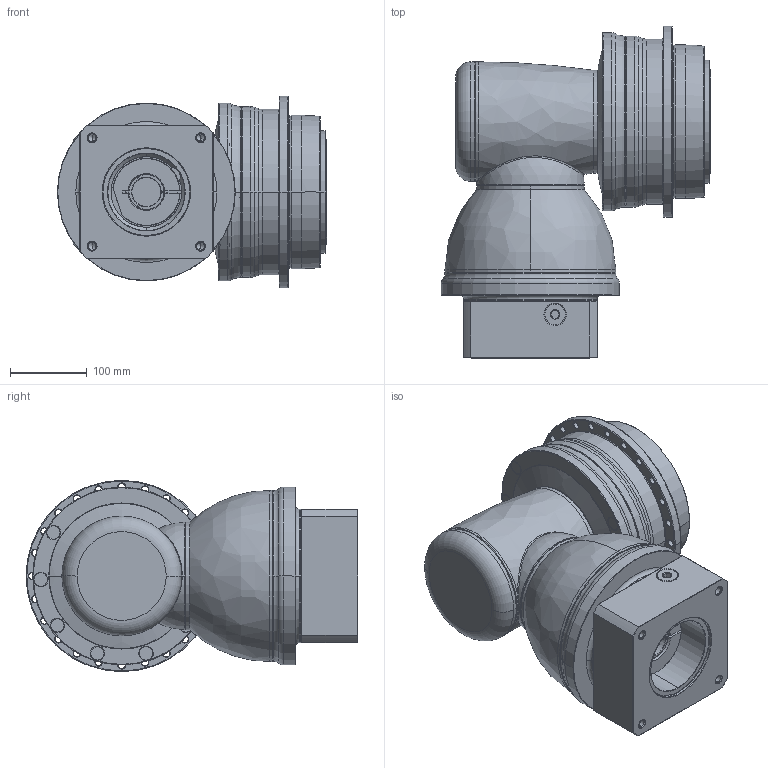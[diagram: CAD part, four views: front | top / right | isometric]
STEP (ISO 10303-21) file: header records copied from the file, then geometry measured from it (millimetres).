
FILE_DESCRIPTION((''),'2;1');
FILE_NAME('APK200_2ST_SBG_38-P0409910201_ASM','2018-10-30T',('d01226'),(''),'PRO/ENGINEER BY PARAMETRIC TECHNOLOGY CORPORATION, 2015240','PRO/ENGINEER BY PARAMETRIC TECHNOLOGY CORPORATION, 2015240','');
FILE_SCHEMA(('CONFIG_CONTROL_DESIGN'));
Length unit declared in the file: millimetre
Products named in the file (13): P0278601003; P0359601103; P1211600001; P1802610001; P1018600002; P1365600001; P1007601001; P1318610201; P0503900012; P0912652001; P0409910201; 21711422019; APK200_2ST_SBG_38-P0409910201_ASM
Assembly tree (12 placements, depth 2):
  APK200_2ST_SBG_38-P0409910201_ASM
    P0278601003
    P0359601103
    P1211600001
    P1802610001
    P1018600002
    P1365600001
    P1007601001
    P1318610201
    P0503900012
    P0912652001
    P0409910201
    21711422019
Bounding box: 351 x 432.75 x 249.5 mm (x, y, z)
Volume: 15880610.1 mm3; surface area: 1104642 mm2
Topology: 13 solids, 38 shells, 866 faces, 2022 edges, 1227 vertices
Faces by surface type: cylinder 358, cone 238, plane 153, torus 89, bspline 26, sphere 2
Entity records: 30935 total; most frequent: CARTESIAN_POINT 10381, DIRECTION 4755, ORIENTED_EDGE 3854, AXIS2_PLACEMENT_3D 2046, EDGE_CURVE 1978, VERTEX_POINT 1227, CIRCLE 1171, EDGE_LOOP 1019
